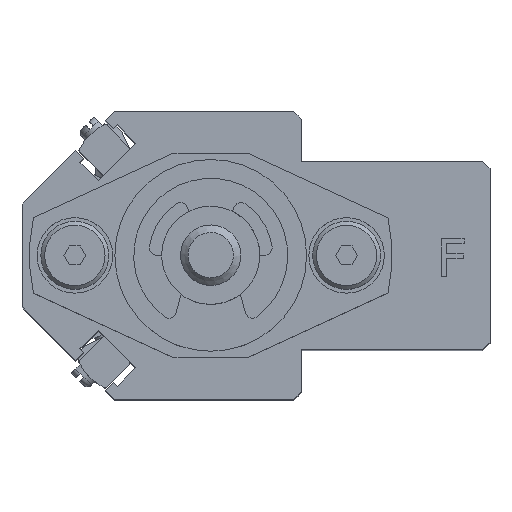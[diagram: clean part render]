
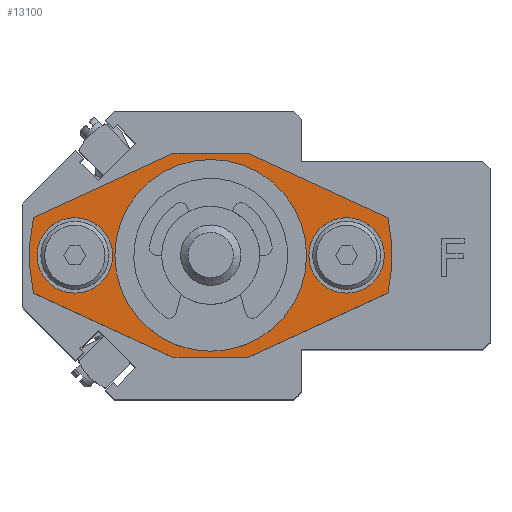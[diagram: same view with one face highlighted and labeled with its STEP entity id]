
A CAD part, top view. The second image highlights one B-rep face of the part: STEP entity #13100.
In plain terms, the highlighted planar face has unit normal (0, 0, 1).
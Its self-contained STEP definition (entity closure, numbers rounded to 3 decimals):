
#363=FACE_BOUND('',#4797,.T.);
#364=FACE_BOUND('',#4798,.T.);
#365=FACE_BOUND('',#4799,.T.);
#1538=LINE('',#21573,#2919);
#1545=LINE('',#21590,#2926);
#1546=LINE('',#21593,#2927);
#1547=LINE('',#21594,#2928);
#1548=LINE('',#21596,#2929);
#1549=LINE('',#21597,#2930);
#2919=VECTOR('',#17480,10.);
#2926=VECTOR('',#17495,10.);
#2927=VECTOR('',#17498,10.);
#2928=VECTOR('',#17499,10.);
#2929=VECTOR('',#17500,10.);
#2930=VECTOR('',#17501,10.);
#3400=CIRCLE('',#14366,10.5);
#3401=CIRCLE('',#14367,10.5);
#3408=CIRCLE('',#14378,24.);
#3410=CIRCLE('',#14381,24.);
#3413=CIRCLE('',#14388,5.);
#3414=CIRCLE('',#14389,5.);
#3415=CIRCLE('',#14390,5.);
#3416=CIRCLE('',#14391,5.);
#4101=FACE_OUTER_BOUND('',#4796,.T.);
#4796=EDGE_LOOP('',(#11010,#11011,#11012,#11013,#11014,#11015,#11016,#11017));
#4797=EDGE_LOOP('',(#11018,#11019));
#4798=EDGE_LOOP('',(#11020,#11021));
#4799=EDGE_LOOP('',(#11022,#11023));
#5962=VERTEX_POINT('',#21531);
#5963=VERTEX_POINT('',#21533);
#5971=VERTEX_POINT('',#21554);
#5972=VERTEX_POINT('',#21556);
#5975=VERTEX_POINT('',#21563);
#5976=VERTEX_POINT('',#21565);
#5978=VERTEX_POINT('',#21571);
#5984=VERTEX_POINT('',#21588);
#5985=VERTEX_POINT('',#21592);
#5986=VERTEX_POINT('',#21595);
#5987=VERTEX_POINT('',#21598);
#5988=VERTEX_POINT('',#21599);
#5989=VERTEX_POINT('',#21602);
#5990=VERTEX_POINT('',#21603);
#7698=EDGE_CURVE('',#5963,#5962,#3400,.T.);
#7699=EDGE_CURVE('',#5962,#5963,#3401,.T.);
#7708=EDGE_CURVE('',#5972,#5971,#3408,.T.);
#7712=EDGE_CURVE('',#5976,#5975,#3410,.T.);
#7716=EDGE_CURVE('',#5971,#5978,#1538,.T.);
#7725=EDGE_CURVE('',#5975,#5984,#1545,.T.);
#7726=EDGE_CURVE('',#5978,#5985,#1546,.T.);
#7727=EDGE_CURVE('',#5985,#5976,#1547,.T.);
#7728=EDGE_CURVE('',#5984,#5986,#1548,.T.);
#7729=EDGE_CURVE('',#5986,#5972,#1549,.T.);
#7730=EDGE_CURVE('',#5987,#5988,#3413,.T.);
#7731=EDGE_CURVE('',#5988,#5987,#3414,.T.);
#7732=EDGE_CURVE('',#5989,#5990,#3415,.T.);
#7733=EDGE_CURVE('',#5990,#5989,#3416,.T.);
#11010=ORIENTED_EDGE('',*,*,#7708,.T.);
#11011=ORIENTED_EDGE('',*,*,#7716,.T.);
#11012=ORIENTED_EDGE('',*,*,#7726,.T.);
#11013=ORIENTED_EDGE('',*,*,#7727,.T.);
#11014=ORIENTED_EDGE('',*,*,#7712,.T.);
#11015=ORIENTED_EDGE('',*,*,#7725,.T.);
#11016=ORIENTED_EDGE('',*,*,#7728,.T.);
#11017=ORIENTED_EDGE('',*,*,#7729,.T.);
#11018=ORIENTED_EDGE('',*,*,#7698,.T.);
#11019=ORIENTED_EDGE('',*,*,#7699,.T.);
#11020=ORIENTED_EDGE('',*,*,#7730,.T.);
#11021=ORIENTED_EDGE('',*,*,#7731,.T.);
#11022=ORIENTED_EDGE('',*,*,#7732,.T.);
#11023=ORIENTED_EDGE('',*,*,#7733,.T.);
#12297=PLANE('',#14387);
#13100=ADVANCED_FACE('',(#4101,#363,#364,#365),#12297,.T.);
#14366=AXIS2_PLACEMENT_3D('',#21534,#17439,#17440);
#14367=AXIS2_PLACEMENT_3D('',#21535,#17441,#17442);
#14378=AXIS2_PLACEMENT_3D('',#21557,#17465,#17466);
#14381=AXIS2_PLACEMENT_3D('',#21566,#17473,#17474);
#14387=AXIS2_PLACEMENT_3D('',#21591,#17496,#17497);
#14388=AXIS2_PLACEMENT_3D('',#21600,#17502,#17503);
#14389=AXIS2_PLACEMENT_3D('',#21601,#17504,#17505);
#14390=AXIS2_PLACEMENT_3D('',#21604,#17506,#17507);
#14391=AXIS2_PLACEMENT_3D('',#21605,#17508,#17509);
#17439=DIRECTION('center_axis',(0.,0.,-1.));
#17440=DIRECTION('ref_axis',(1.,0.,0.));
#17441=DIRECTION('center_axis',(0.,0.,-1.));
#17442=DIRECTION('ref_axis',(1.,0.,0.));
#17465=DIRECTION('center_axis',(0.,0.,1.));
#17466=DIRECTION('ref_axis',(0.978,-0.208,0.));
#17473=DIRECTION('center_axis',(0.,0.,1.));
#17474=DIRECTION('ref_axis',(-0.978,0.208,0.));
#17480=DIRECTION('',(0.908,-0.418,0.));
#17495=DIRECTION('',(-0.908,0.418,0.));
#17496=DIRECTION('center_axis',(0.,0.,1.));
#17497=DIRECTION('ref_axis',(1.,0.,0.));
#17498=DIRECTION('',(1.,0.,0.));
#17499=DIRECTION('',(0.908,0.418,0.));
#17500=DIRECTION('',(-1.,0.,0.));
#17501=DIRECTION('',(-0.908,-0.418,0.));
#17502=DIRECTION('center_axis',(0.,0.,-1.));
#17503=DIRECTION('ref_axis',(1.,0.,0.));
#17504=DIRECTION('center_axis',(0.,0.,-1.));
#17505=DIRECTION('ref_axis',(1.,0.,0.));
#17506=DIRECTION('center_axis',(0.,0.,-1.));
#17507=DIRECTION('ref_axis',(1.,0.,0.));
#17508=DIRECTION('center_axis',(0.,0.,-1.));
#17509=DIRECTION('ref_axis',(1.,0.,0.));
#21531=CARTESIAN_POINT('',(-10.5,0.,6.));
#21533=CARTESIAN_POINT('',(10.5,0.,6.));
#21534=CARTESIAN_POINT('Origin',(0.,0.,6.));
#21535=CARTESIAN_POINT('Origin',(0.,0.,6.));
#21554=CARTESIAN_POINT('',(-23.473,-5.001,6.));
#21556=CARTESIAN_POINT('',(-23.473,5.001,6.));
#21557=CARTESIAN_POINT('Origin',(0.,0.,6.));
#21563=CARTESIAN_POINT('',(23.473,5.001,6.));
#21565=CARTESIAN_POINT('',(23.473,-5.001,6.));
#21566=CARTESIAN_POINT('Origin',(0.,0.,6.));
#21571=CARTESIAN_POINT('',(-5.,-13.5,6.));
#21573=CARTESIAN_POINT('',(-15.7,-8.578,6.));
#21588=CARTESIAN_POINT('',(5.,13.5,6.));
#21590=CARTESIAN_POINT('',(15.7,8.578,6.));
#21591=CARTESIAN_POINT('Origin',(0.,0.,6.));
#21592=CARTESIAN_POINT('',(5.,-13.5,6.));
#21593=CARTESIAN_POINT('',(25.4,-13.5,6.));
#21594=CARTESIAN_POINT('',(15.7,-8.578,6.));
#21595=CARTESIAN_POINT('',(-5.,13.5,6.));
#21596=CARTESIAN_POINT('',(-25.4,13.5,6.));
#21597=CARTESIAN_POINT('',(-15.7,8.578,6.));
#21598=CARTESIAN_POINT('',(-13.,0.,6.));
#21599=CARTESIAN_POINT('',(-23.,0.,6.));
#21600=CARTESIAN_POINT('Origin',(-18.,0.,6.));
#21601=CARTESIAN_POINT('Origin',(-18.,0.,6.));
#21602=CARTESIAN_POINT('',(23.,0.,6.));
#21603=CARTESIAN_POINT('',(13.,0.,6.));
#21604=CARTESIAN_POINT('Origin',(18.,0.,6.));
#21605=CARTESIAN_POINT('Origin',(18.,0.,6.));
